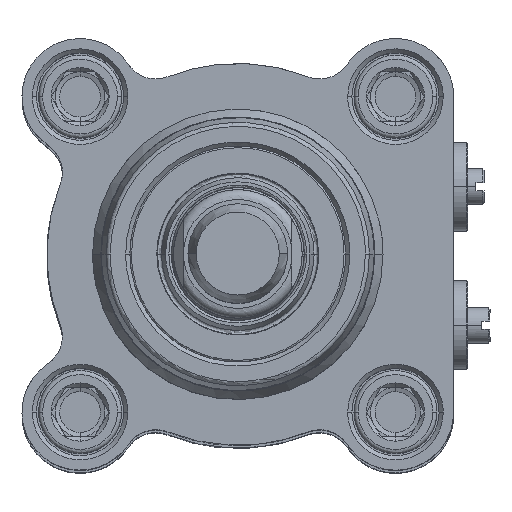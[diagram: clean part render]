
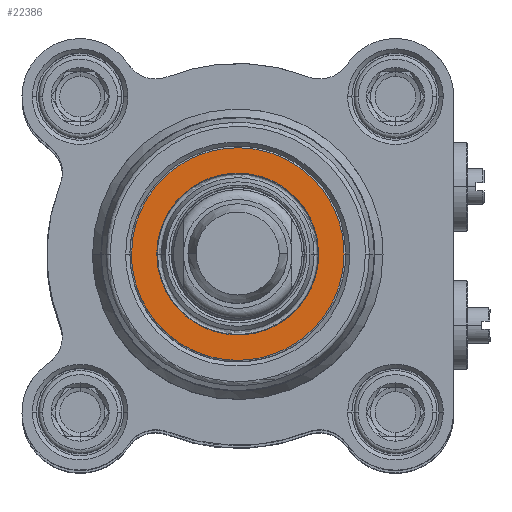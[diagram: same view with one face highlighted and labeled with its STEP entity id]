
A CAD part, top view. The second image highlights one B-rep face of the part: STEP entity #22386.
In plain terms, the highlighted planar face has unit normal (0, 0, 1).
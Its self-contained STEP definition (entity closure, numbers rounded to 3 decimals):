
#174 = CARTESIAN_POINT ( 'NONE',  ( 1.276, 9.75, 136.3 ) ) ;
#373 = CARTESIAN_POINT ( 'NONE',  ( -12.467, -3.35, 136.3 ) ) ;
#755 = EDGE_CURVE ( 'NONE', #2169, #10675, #3192, .T. ) ;
#1070 = CARTESIAN_POINT ( 'NONE',  ( 9.75, 0., 136.3 ) ) ;
#1479 = CARTESIAN_POINT ( 'NONE',  ( -9.75, -1.276, 136.3 ) ) ;
#1622 = CARTESIAN_POINT ( 'NONE',  ( -9.75, 0., 136.3 ) ) ;
#1995 = CARTESIAN_POINT ( 'NONE',  ( -12.8, 0., 136.3 ) ) ;
#2027 = CARTESIAN_POINT ( 'NONE',  ( -10.236, 7.866, 136.3 ) ) ;
#2126 = CARTESIAN_POINT ( 'NONE',  ( -2.552, 9.496, 136.3 ) ) ;
#2169 = VERTEX_POINT ( 'NONE', #1070 ) ;
#2224 = CARTESIAN_POINT ( 'NONE',  ( 4.91, -8.519, 136.3 ) ) ;
#2427 = CARTESIAN_POINT ( 'NONE',  ( 9.496, 2.552, 136.3 ) ) ;
#2520 = CARTESIAN_POINT ( 'NONE',  ( -2.552, -9.496, 136.3 ) ) ;
#3192 = B_SPLINE_CURVE_WITH_KNOTS ( 'NONE', 3,
 ( #11319, #29480, #2427, #4090, #9349, #13569, #15522, #23014, #174, #24657, #2126, #27222, #24811, #6644, #6491, #13267, #18060, #6949 ),
 .UNSPECIFIED., .F., .F.,
 ( 4, 2, 2, 2, 2, 2, 2, 2, 4 ),
 ( 0.5, 0.563, 0.625, 0.688, 0.75, 0.813, 0.875, 0.938, 1. ),
 .UNSPECIFIED. ) ;
#3474 = ORIENTED_EDGE ( 'NONE', *, *, #25343, .F. ) ;
#3936 = CARTESIAN_POINT ( 'NONE',  ( 12.8, 0., 136.3 ) ) ;
#3994 = CARTESIAN_POINT ( 'NONE',  ( -6.446, 11.184, 136.3 ) ) ;
#4090 = CARTESIAN_POINT ( 'NONE',  ( 8.519, 4.91, 136.3 ) ) ;
#4454 = CARTESIAN_POINT ( 'NONE',  ( 12.8, 1.676, 136.3 ) ) ;
#4638 = CARTESIAN_POINT ( 'NONE',  ( -4.91, -8.519, 136.3 ) ) ;
#4738 = CARTESIAN_POINT ( 'NONE',  ( -6.446, -11.184, 136.3 ) ) ;
#4929 = CARTESIAN_POINT ( 'NONE',  ( 2.552, -9.496, 136.3 ) ) ;
#5767 = PLANE ( 'NONE',  #19074 ) ;
#6051 = CARTESIAN_POINT ( 'NONE',  ( 0., -12.8, 136.3 ) ) ;
#6491 = CARTESIAN_POINT ( 'NONE',  ( -8.519, 4.91, 136.3 ) ) ;
#6644 = CARTESIAN_POINT ( 'NONE',  ( -7.797, 5.992, 136.3 ) ) ;
#6701 = CARTESIAN_POINT ( 'NONE',  ( 3.35, 12.467, 136.3 ) ) ;
#6739 = CARTESIAN_POINT ( 'NONE',  ( 9.75, 0., 136.3 ) ) ;
#6941 = B_SPLINE_CURVE_WITH_KNOTS ( 'NONE', 3,
 ( #1622, #1479, #29124, #24606, #13212, #9138, #4638, #2520, #18152, #15917, #4929, #2224, #21002, #16353, #29721, #25338, #27902, #6739 ),
 .UNSPECIFIED., .F., .F.,
 ( 4, 2, 2, 2, 2, 2, 2, 2, 4 ),
 ( 0., 0.062, 0.125, 0.188, 0.25, 0.313, 0.375, 0.438, 0.5 ),
 .UNSPECIFIED. ) ;
#6949 = CARTESIAN_POINT ( 'NONE',  ( -9.75, 0., 136.3 ) ) ;
#7883 = ORIENTED_EDGE ( 'NONE', *, *, #16389, .F. ) ;
#8174 = FACE_OUTER_BOUND ( 'NONE', #20185, .T. ) ;
#9138 = CARTESIAN_POINT ( 'NONE',  ( -5.992, -7.797, 136.3 ) ) ;
#9349 = CARTESIAN_POINT ( 'NONE',  ( 7.797, 5.992, 136.3 ) ) ;
#9395 = CARTESIAN_POINT ( 'NONE',  ( -10.236, -7.866, 136.3 ) ) ;
#9617 = VERTEX_POINT ( 'NONE', #3936 ) ;
#10675 = VERTEX_POINT ( 'NONE', #13912 ) ;
#10774 = CARTESIAN_POINT ( 'NONE',  ( -12.8, 0., 136.3 ) ) ;
#10880 = DIRECTION ( 'NONE',  ( 0., 0., -1. ) ) ;
#11319 = CARTESIAN_POINT ( 'NONE',  ( 9.75, 0., 136.3 ) ) ;
#11660 = CARTESIAN_POINT ( 'NONE',  ( 3.35, -12.467, 136.3 ) ) ;
#11801 = CARTESIAN_POINT ( 'NONE',  ( 6.446, -11.184, 136.3 ) ) ;
#12681 = FACE_BOUND ( 'NONE', #22608, .T. ) ;
#13212 = CARTESIAN_POINT ( 'NONE',  ( -7.797, -5.992, 136.3 ) ) ;
#13267 = CARTESIAN_POINT ( 'NONE',  ( -9.496, 2.552, 136.3 ) ) ;
#13320 = CARTESIAN_POINT ( 'NONE',  ( 12.467, -3.35, 136.3 ) ) ;
#13569 = CARTESIAN_POINT ( 'NONE',  ( 5.992, 7.797, 136.3 ) ) ;
#13627 = CARTESIAN_POINT ( 'NONE',  ( 12.8, 0., 136.3 ) ) ;
#13912 = CARTESIAN_POINT ( 'NONE',  ( -9.75, 0., 136.3 ) ) ;
#13915 = CARTESIAN_POINT ( 'NONE',  ( -12.8, -1.676, 136.3 ) ) ;
#14866 = ORIENTED_EDGE ( 'NONE', *, *, #755, .F. ) ;
#15063 = VERTEX_POINT ( 'NONE', #1995 ) ;
#15230 = DIRECTION ( 'NONE',  ( 0., -1., 0. ) ) ;
#15522 = CARTESIAN_POINT ( 'NONE',  ( 4.91, 8.519, 136.3 ) ) ;
#15573 = CARTESIAN_POINT ( 'NONE',  ( 12.8, -1.676, 136.3 ) ) ;
#15875 = CARTESIAN_POINT ( 'NONE',  ( 11.184, 6.446, 136.3 ) ) ;
#15917 = CARTESIAN_POINT ( 'NONE',  ( 1.276, -9.75, 136.3 ) ) ;
#16309 = CARTESIAN_POINT ( 'NONE',  ( -11.184, -6.446, 136.3 ) ) ;
#16353 = CARTESIAN_POINT ( 'NONE',  ( 7.797, -5.992, 136.3 ) ) ;
#16389 = EDGE_CURVE ( 'NONE', #9617, #15063, #19975, .T. ) ;
#17156 = EDGE_CURVE ( 'NONE', #15063, #9617, #18513, .T. ) ;
#17815 = CARTESIAN_POINT ( 'NONE',  ( -12.8, 1.676, 136.3 ) ) ;
#18060 = CARTESIAN_POINT ( 'NONE',  ( -9.75, 1.276, 136.3 ) ) ;
#18152 = CARTESIAN_POINT ( 'NONE',  ( -1.276, -9.75, 136.3 ) ) ;
#18405 = CARTESIAN_POINT ( 'NONE',  ( -3.35, -12.467, 136.3 ) ) ;
#18513 = B_SPLINE_CURVE_WITH_KNOTS ( 'NONE', 3,
 ( #10774, #17815, #29530, #20221, #2027, #29381, #3994, #26970, #28932, #27278, #6701, #20369, #25013, #24562, #15875, #22327, #4454, #13627 ),
 .UNSPECIFIED., .F., .F.,
 ( 4, 2, 2, 2, 2, 2, 2, 2, 4 ),
 ( 0., 0.063, 0.125, 0.188, 0.25, 0.313, 0.375, 0.438, 0.5 ),
 .UNSPECIFIED. ) ;
#19074 = AXIS2_PLACEMENT_3D ( 'NONE', #6051, #10880, #15230 ) ;
#19975 = B_SPLINE_CURVE_WITH_KNOTS ( 'NONE', 3,
 ( #24557, #15573, #13320, #22466, #20363, #29524, #11801, #11660, #22916, #25293, #18405, #4738, #21103, #9395, #16309, #373, #13915, #20813 ),
 .UNSPECIFIED., .F., .F.,
 ( 4, 2, 2, 2, 2, 2, 2, 2, 4 ),
 ( 0.5, 0.563, 0.625, 0.687, 0.75, 0.813, 0.875, 0.938, 1. ),
 .UNSPECIFIED. ) ;
#20185 = EDGE_LOOP ( 'NONE', ( #7883, #20716 ) ) ;
#20221 = CARTESIAN_POINT ( 'NONE',  ( -11.184, 6.446, 136.3 ) ) ;
#20363 = CARTESIAN_POINT ( 'NONE',  ( 10.236, -7.866, 136.3 ) ) ;
#20369 = CARTESIAN_POINT ( 'NONE',  ( 6.446, 11.184, 136.3 ) ) ;
#20716 = ORIENTED_EDGE ( 'NONE', *, *, #17156, .F. ) ;
#20813 = CARTESIAN_POINT ( 'NONE',  ( -12.8, 0., 136.3 ) ) ;
#21002 = CARTESIAN_POINT ( 'NONE',  ( 5.992, -7.797, 136.3 ) ) ;
#21103 = CARTESIAN_POINT ( 'NONE',  ( -7.866, -10.236, 136.3 ) ) ;
#22327 = CARTESIAN_POINT ( 'NONE',  ( 12.467, 3.35, 136.3 ) ) ;
#22386 = ADVANCED_FACE ( 'NONE', ( #8174, #12681 ), #5767, .F. ) ;
#22466 = CARTESIAN_POINT ( 'NONE',  ( 11.184, -6.446, 136.3 ) ) ;
#22608 = EDGE_LOOP ( 'NONE', ( #3474, #14866 ) ) ;
#22916 = CARTESIAN_POINT ( 'NONE',  ( 1.676, -12.8, 136.3 ) ) ;
#23014 = CARTESIAN_POINT ( 'NONE',  ( 2.552, 9.496, 136.3 ) ) ;
#24557 = CARTESIAN_POINT ( 'NONE',  ( 12.8, 0., 136.3 ) ) ;
#24562 = CARTESIAN_POINT ( 'NONE',  ( 10.236, 7.866, 136.3 ) ) ;
#24606 = CARTESIAN_POINT ( 'NONE',  ( -8.519, -4.91, 136.3 ) ) ;
#24657 = CARTESIAN_POINT ( 'NONE',  ( -1.276, 9.75, 136.3 ) ) ;
#24811 = CARTESIAN_POINT ( 'NONE',  ( -5.992, 7.797, 136.3 ) ) ;
#25013 = CARTESIAN_POINT ( 'NONE',  ( 7.866, 10.236, 136.3 ) ) ;
#25293 = CARTESIAN_POINT ( 'NONE',  ( -1.676, -12.8, 136.3 ) ) ;
#25338 = CARTESIAN_POINT ( 'NONE',  ( 9.496, -2.552, 136.3 ) ) ;
#25343 = EDGE_CURVE ( 'NONE', #10675, #2169, #6941, .T. ) ;
#26970 = CARTESIAN_POINT ( 'NONE',  ( -3.35, 12.467, 136.3 ) ) ;
#27222 = CARTESIAN_POINT ( 'NONE',  ( -4.91, 8.519, 136.3 ) ) ;
#27278 = CARTESIAN_POINT ( 'NONE',  ( 1.676, 12.8, 136.3 ) ) ;
#27902 = CARTESIAN_POINT ( 'NONE',  ( 9.75, -1.276, 136.3 ) ) ;
#28932 = CARTESIAN_POINT ( 'NONE',  ( -1.676, 12.8, 136.3 ) ) ;
#29124 = CARTESIAN_POINT ( 'NONE',  ( -9.496, -2.552, 136.3 ) ) ;
#29381 = CARTESIAN_POINT ( 'NONE',  ( -7.866, 10.236, 136.3 ) ) ;
#29480 = CARTESIAN_POINT ( 'NONE',  ( 9.75, 1.276, 136.3 ) ) ;
#29524 = CARTESIAN_POINT ( 'NONE',  ( 7.866, -10.236, 136.3 ) ) ;
#29530 = CARTESIAN_POINT ( 'NONE',  ( -12.467, 3.35, 136.3 ) ) ;
#29721 = CARTESIAN_POINT ( 'NONE',  ( 8.519, -4.91, 136.3 ) ) ;
